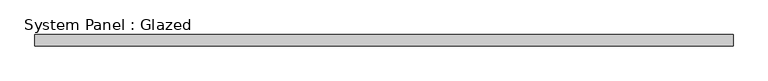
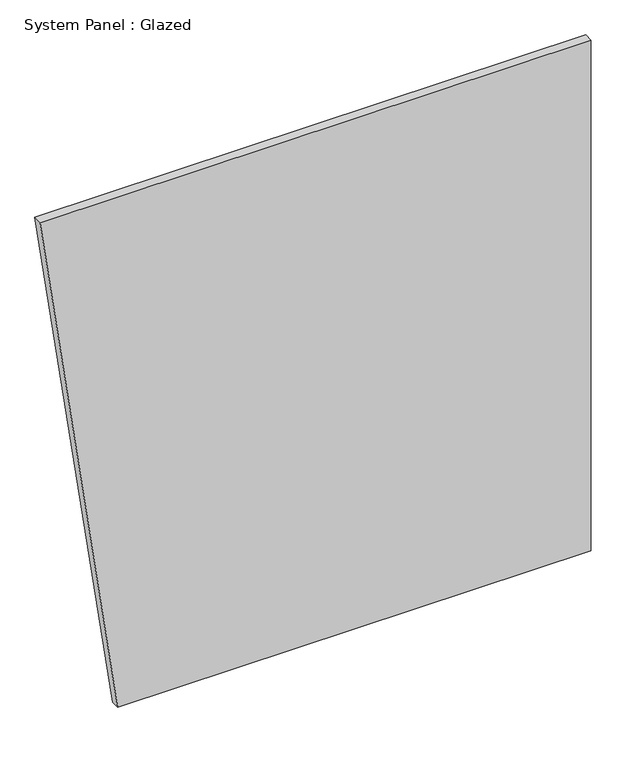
"""IFC4 building model written with IfcOpenShell, lengths in millimetres: plate geometry, System Panel : Glazed."""

from ifc_helpers import new_model, si_unit, frame, origin, place, context, project, spatial, polyline, outline, extrude, source, transform, mapped, element, save


def system_panel_glazed_dcd98b6b(model_context):
    return source(origin(), model_context, "Body", "SweptSolid", [
        extrude(outline(polyline([(0.0, -559.1654678), (0.0, 778.4460433), (1524.0, 778.4460433), (1524.0, -778.4460433), (0.0, -559.1654678)])), frame((0.0, 19.05, 0.0), z_axis=(0.0, 1.0, 0.0), x_axis=(0.0, 0.0, 1.0)), (0.0, 0.0, 1.0), 25.4),
    ])


if __name__ == "__main__":
    model = new_model("IFC4")
    model_context = context("Model", 3, world=origin())
    ifc_project = project(units=[si_unit("LENGTHUNIT", "METRE", prefix="MILLI")], contexts=[model_context])
    site = spatial("IfcSite", under=ifc_project)
    building = spatial("IfcBuilding", under=site)
    placement = place(None, origin())
    system_panel_glazed_shape = system_panel_glazed_dcd98b6b(model_context)
    element("IfcPlate", 1, ObjectType="System Panel : Glazed", at=placement, inside=building, context=model_context, shape_type="MappedRepresentation", body=[
        mapped(system_panel_glazed_shape, transform((0.0, 0.0, 0.0), x_axis=(1.0, 0.0, 0.0), y_axis=(0.0, 1.0, 0.0), z_axis=(0.0, 0.0, 1.0))),
    ])
    save(model, "model.ifc")
